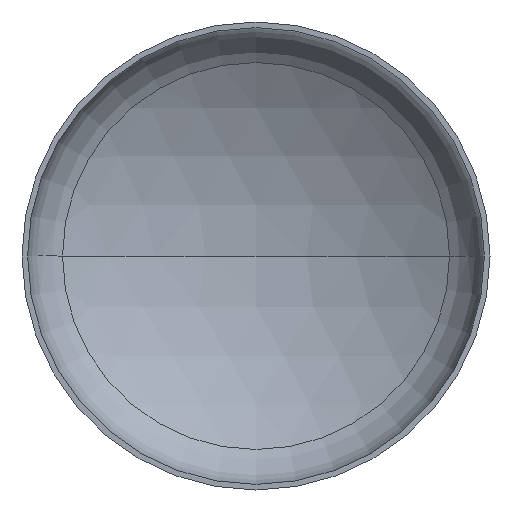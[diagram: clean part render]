
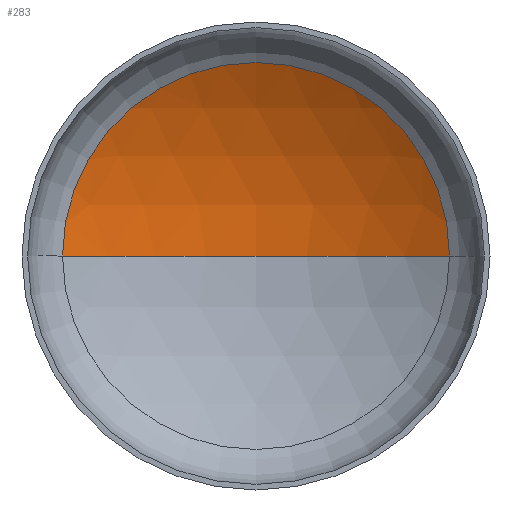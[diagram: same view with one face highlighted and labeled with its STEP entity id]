
A CAD part, front view. The second image highlights one B-rep face of the part: STEP entity #283.
In plain terms, the highlighted spherical face has radius 5600 mm.
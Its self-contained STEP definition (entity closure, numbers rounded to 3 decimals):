
#11 = CIRCLE ( 'NONE', #86, 2894.159 ) ;
#16 = ORIENTED_EDGE ( 'NONE', *, *, #156, .F. ) ;
#17 = VERTEX_POINT ( 'NONE', #340 ) ;
#23 = AXIS2_PLACEMENT_3D ( 'NONE', #35, #336, #151 ) ;
#34 = EDGE_LOOP ( 'NONE', ( #16, #145, #133 ) ) ;
#35 = CARTESIAN_POINT ( 'NONE',  ( 0., -3769.561, 0. ) ) ;
#77 = VERTEX_POINT ( 'NONE', #339 ) ;
#78 = AXIS2_PLACEMENT_3D ( 'NONE', #209, #368, #153 ) ;
#83 = AXIS2_PLACEMENT_3D ( 'NONE', #144, #170, #106 ) ;
#86 = AXIS2_PLACEMENT_3D ( 'NONE', #266, #179, #177 ) ;
#106 = DIRECTION ( 'NONE',  ( -1., 0., 0. ) ) ;
#133 = ORIENTED_EDGE ( 'NONE', *, *, #148, .T. ) ;
#136 = VERTEX_POINT ( 'NONE', #140 ) ;
#140 = CARTESIAN_POINT ( 'NONE',  ( 2894.159, 1024.585, 0. ) ) ;
#144 = CARTESIAN_POINT ( 'NONE',  ( 0., -3769.561, 0. ) ) ;
#145 = ORIENTED_EDGE ( 'NONE', *, *, #149, .T. ) ;
#148 = EDGE_CURVE ( 'NONE', #136, #17, #11, .T. ) ;
#149 = EDGE_CURVE ( 'NONE', #77, #136, #242, .T. ) ;
#151 = DIRECTION ( 'NONE',  ( -1., 0., 0. ) ) ;
#153 = DIRECTION ( 'NONE',  ( 1., 0., 0. ) ) ;
#156 = EDGE_CURVE ( 'NONE', #77, #17, #351, .T. ) ;
#170 = DIRECTION ( 'NONE',  ( 0., 0., -1. ) ) ;
#177 = DIRECTION ( 'NONE',  ( 1., 0., 0. ) ) ;
#179 = DIRECTION ( 'NONE',  ( 0., -1., 0. ) ) ;
#209 = CARTESIAN_POINT ( 'NONE',  ( 0., -3769.561, 0. ) ) ;
#242 = CIRCLE ( 'NONE', #83, 5600. ) ;
#266 = CARTESIAN_POINT ( 'NONE',  ( 0., 1024.585, 0. ) ) ;
#277 = SPHERICAL_SURFACE ( 'NONE', #23, 5600. ) ;
#283 = ADVANCED_FACE ( 'NONE', ( #343 ), #277, .F. ) ;
#336 = DIRECTION ( 'NONE',  ( 0., 0., -1. ) ) ;
#339 = CARTESIAN_POINT ( 'NONE',  ( 0., 1830.439, 0. ) ) ;
#340 = CARTESIAN_POINT ( 'NONE',  ( -2894.159, 1024.585, 0. ) ) ;
#343 = FACE_OUTER_BOUND ( 'NONE', #34, .T. ) ;
#351 = CIRCLE ( 'NONE', #78, 5600. ) ;
#368 = DIRECTION ( 'NONE',  ( 0., 0., 1. ) ) ;
